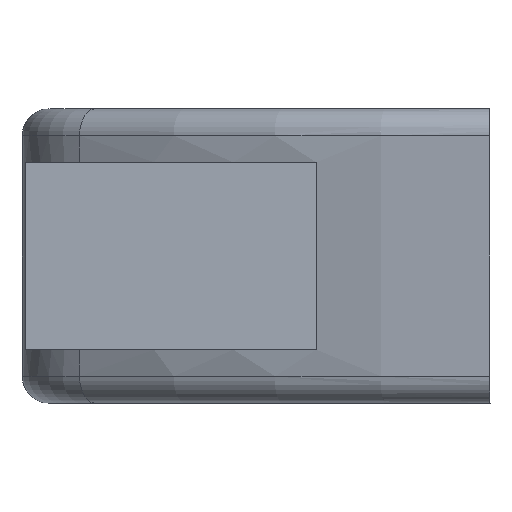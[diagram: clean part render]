
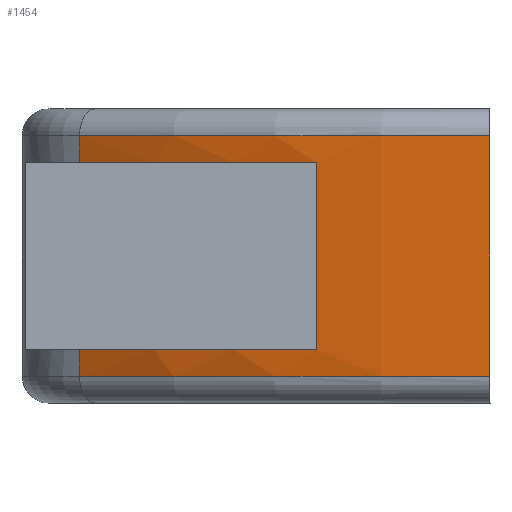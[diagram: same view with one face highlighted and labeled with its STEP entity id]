
A CAD part, left-side view. The second image highlights one B-rep face of the part: STEP entity #1454.
In plain terms, the highlighted cylindrical face has radius 57.208 mm (diameter 114.417 mm), a partial arc.
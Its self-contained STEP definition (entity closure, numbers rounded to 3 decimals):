
#12 = DIRECTION ( 'NONE',  ( -1., 0., 0. ) ) ;
#66 = VECTOR ( 'NONE', #1642, 1000. ) ;
#98 = ORIENTED_EDGE ( 'NONE', *, *, #653, .T. ) ;
#118 = ORIENTED_EDGE ( 'NONE', *, *, #1146, .T. ) ;
#123 = CARTESIAN_POINT ( 'NONE',  ( 465.349, 62.895, 9. ) ) ;
#140 = EDGE_CURVE ( 'NONE', #1547, #1520, #624, .T. ) ;
#165 = LINE ( 'NONE', #1077, #1489 ) ;
#184 = EDGE_CURVE ( 'NONE', #915, #897, #326, .T. ) ;
#226 = AXIS2_PLACEMENT_3D ( 'NONE', #123, #1027, #247 ) ;
#247 = DIRECTION ( 'NONE',  ( 1., 0., 0. ) ) ;
#298 = CARTESIAN_POINT ( 'NONE',  ( 418.335, 95.49, -7. ) ) ;
#316 = CARTESIAN_POINT ( 'NONE',  ( 408.172, 64.793, 11. ) ) ;
#322 = DIRECTION ( 'NONE',  ( 0., 0., -1. ) ) ;
#326 = CIRCLE ( 'NONE', #1476, 57.208 ) ;
#330 = DIRECTION ( 'NONE',  ( 0., 0., -1. ) ) ;
#336 = EDGE_CURVE ( 'NONE', #1437, #1520, #165, .T. ) ;
#337 = CARTESIAN_POINT ( 'NONE',  ( 418.335, 95.49, -9. ) ) ;
#354 = EDGE_LOOP ( 'NONE', ( #118, #934, #1340, #851, #1439, #1241, #98, #1470 ) ) ;
#355 = CARTESIAN_POINT ( 'NONE',  ( 408.172, 64.793, 9. ) ) ;
#460 = CARTESIAN_POINT ( 'NONE',  ( 465.349, 62.895, 11. ) ) ;
#533 = DIRECTION ( 'NONE',  ( 0., 0., 1. ) ) ;
#579 = VECTOR ( 'NONE', #1083, 1000. ) ;
#597 = DIRECTION ( 'NONE',  ( -1., 0., 0. ) ) ;
#611 = CARTESIAN_POINT ( 'NONE',  ( 418.335, 95.49, 7. ) ) ;
#624 = CIRCLE ( 'NONE', #806, 57.208 ) ;
#629 = CIRCLE ( 'NONE', #226, 57.208 ) ;
#653 = EDGE_CURVE ( 'NONE', #1547, #915, #763, .T. ) ;
#700 = CARTESIAN_POINT ( 'NONE',  ( 418.335, 95.49, 11. ) ) ;
#763 = LINE ( 'NONE', #764, #66 ) ;
#764 = CARTESIAN_POINT ( 'NONE',  ( 410.114, 77.793, 11. ) ) ;
#786 = EDGE_CURVE ( 'NONE', #1478, #1036, #933, .T. ) ;
#791 = DIRECTION ( 'NONE',  ( 0., 0., -1. ) ) ;
#793 = CYLINDRICAL_SURFACE ( 'NONE', #873, 57.208 ) ;
#798 = AXIS2_PLACEMENT_3D ( 'NONE', #1293, #533, #1425 ) ;
#806 = AXIS2_PLACEMENT_3D ( 'NONE', #1530, #791, #12 ) ;
#824 = FACE_OUTER_BOUND ( 'NONE', #354, .T. ) ;
#851 = ORIENTED_EDGE ( 'NONE', *, *, #1620, .T. ) ;
#873 = AXIS2_PLACEMENT_3D ( 'NONE', #460, #330, #597 ) ;
#897 = VERTEX_POINT ( 'NONE', #298 ) ;
#915 = VERTEX_POINT ( 'NONE', #952 ) ;
#928 = LINE ( 'NONE', #700, #579 ) ;
#933 = CIRCLE ( 'NONE', #798, 57.208 ) ;
#934 = ORIENTED_EDGE ( 'NONE', *, *, #786, .T. ) ;
#952 = CARTESIAN_POINT ( 'NONE',  ( 410.114, 77.793, -7. ) ) ;
#1027 = DIRECTION ( 'NONE',  ( 0., 0., -1. ) ) ;
#1036 = VERTEX_POINT ( 'NONE', #1120 ) ;
#1077 = CARTESIAN_POINT ( 'NONE',  ( 418.335, 95.49, 11. ) ) ;
#1083 = DIRECTION ( 'NONE',  ( 0., 0., -1. ) ) ;
#1104 = CARTESIAN_POINT ( 'NONE',  ( 465.349, 62.895, -7. ) ) ;
#1105 = CARTESIAN_POINT ( 'NONE',  ( 418.335, 95.49, 9. ) ) ;
#1120 = CARTESIAN_POINT ( 'NONE',  ( 408.172, 64.793, -9. ) ) ;
#1146 = EDGE_CURVE ( 'NONE', #897, #1478, #928, .T. ) ;
#1219 = DIRECTION ( 'NONE',  ( -1., 0., 0. ) ) ;
#1241 = ORIENTED_EDGE ( 'NONE', *, *, #140, .F. ) ;
#1293 = CARTESIAN_POINT ( 'NONE',  ( 465.349, 62.895, -9. ) ) ;
#1310 = VECTOR ( 'NONE', #1345, 1000. ) ;
#1314 = VERTEX_POINT ( 'NONE', #355 ) ;
#1322 = DIRECTION ( 'NONE',  ( 0., 0., -1. ) ) ;
#1340 = ORIENTED_EDGE ( 'NONE', *, *, #1410, .F. ) ;
#1345 = DIRECTION ( 'NONE',  ( 0., 0., -1. ) ) ;
#1410 = EDGE_CURVE ( 'NONE', #1314, #1036, #1560, .T. ) ;
#1425 = DIRECTION ( 'NONE',  ( 1., 0., 0. ) ) ;
#1437 = VERTEX_POINT ( 'NONE', #1105 ) ;
#1439 = ORIENTED_EDGE ( 'NONE', *, *, #336, .T. ) ;
#1454 = ADVANCED_FACE ( 'NONE', ( #824 ), #793, .T. ) ;
#1470 = ORIENTED_EDGE ( 'NONE', *, *, #184, .T. ) ;
#1476 = AXIS2_PLACEMENT_3D ( 'NONE', #1104, #322, #1219 ) ;
#1478 = VERTEX_POINT ( 'NONE', #337 ) ;
#1489 = VECTOR ( 'NONE', #1322, 1000. ) ;
#1520 = VERTEX_POINT ( 'NONE', #611 ) ;
#1530 = CARTESIAN_POINT ( 'NONE',  ( 465.349, 62.895, 7. ) ) ;
#1547 = VERTEX_POINT ( 'NONE', #1621 ) ;
#1560 = LINE ( 'NONE', #316, #1310 ) ;
#1620 = EDGE_CURVE ( 'NONE', #1314, #1437, #629, .T. ) ;
#1621 = CARTESIAN_POINT ( 'NONE',  ( 410.114, 77.793, 7. ) ) ;
#1642 = DIRECTION ( 'NONE',  ( 0., 0., -1. ) ) ;
